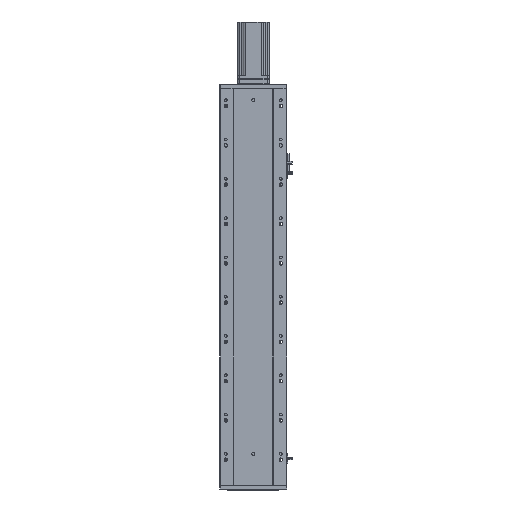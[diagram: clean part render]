
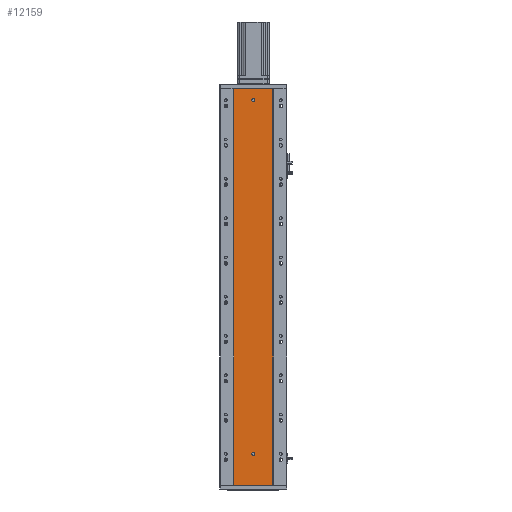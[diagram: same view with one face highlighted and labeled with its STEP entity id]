
A CAD part, front view. The second image highlights one B-rep face of the part: STEP entity #12159.
In plain terms, the highlighted planar face has unit normal (0, -1, 0).
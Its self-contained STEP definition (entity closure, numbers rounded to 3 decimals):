
#234 = CARTESIAN_POINT ( 'NONE',  ( 0., 79.476, 0. ) ) ;
#1301 = LINE ( 'NONE', #234, #2224 ) ;
#2224 = VECTOR ( 'NONE', #68374, 1000. ) ;
#2259 = CARTESIAN_POINT ( 'NONE',  ( 185.97, 79.476, 336.667 ) ) ;
#2319 = VERTEX_POINT ( 'NONE', #44095 ) ;
#2675 = EDGE_CURVE ( 'NONE', #71366, #2319, #48453, .T. ) ;
#4376 = ORIENTED_EDGE ( 'NONE', *, *, #30607, .T. ) ;
#4814 = DIRECTION ( 'NONE',  ( 0., 0., -1. ) ) ;
#6255 = ORIENTED_EDGE ( 'NONE', *, *, #7526, .F. ) ;
#6853 = FACE_OUTER_BOUND ( 'NONE', #45822, .T. ) ;
#7526 = EDGE_CURVE ( 'NONE', #68828, #59315, #68044, .T. ) ;
#7969 = CARTESIAN_POINT ( 'NONE',  ( 185.97, 79.476, 0. ) ) ;
#9318 = EDGE_LOOP ( 'NONE', ( #69474, #26915 ) ) ;
#11415 = CARTESIAN_POINT ( 'NONE',  ( 185.97, 79.476, 0. ) ) ;
#12159 = ADVANCED_FACE ( 'NONE', ( #71763, #28297, #6853 ), #39096, .F. ) ;
#12441 = CARTESIAN_POINT ( 'NONE',  ( 86.97, 79.476, 673.333 ) ) ;
#12668 = AXIS2_PLACEMENT_3D ( 'NONE', #56503, #45325, #50518 ) ;
#12685 = CARTESIAN_POINT ( 'NONE',  ( 86.97, 79.476, 1010. ) ) ;
#15918 = ORIENTED_EDGE ( 'NONE', *, *, #39092, .F. ) ;
#16019 = CARTESIAN_POINT ( 'NONE',  ( 136.47, 79.476, 980. ) ) ;
#16091 = VERTEX_POINT ( 'NONE', #59384 ) ;
#20193 = CARTESIAN_POINT ( 'NONE',  ( 0., 79.476, 1010. ) ) ;
#22346 = ORIENTED_EDGE ( 'NONE', *, *, #46244, .F. ) ;
#23881 = B_SPLINE_CURVE_WITH_KNOTS ( 'NONE', 3,
 ( #42310, #59672, #2259, #7969 ),
 .UNSPECIFIED., .F., .F.,
 ( 4, 4 ),
 ( 0., 1. ),
 .UNSPECIFIED. ) ;
#26915 = ORIENTED_EDGE ( 'NONE', *, *, #46145, .F. ) ;
#27448 = CARTESIAN_POINT ( 'NONE',  ( 136.47, 79.476, 984. ) ) ;
#28297 = FACE_BOUND ( 'NONE', #9318, .T. ) ;
#30607 = EDGE_CURVE ( 'NONE', #2319, #66632, #1301, .T. ) ;
#30987 = VECTOR ( 'NONE', #31418, 1000. ) ;
#31418 = DIRECTION ( 'NONE',  ( 1., 0., 0. ) ) ;
#32261 = EDGE_LOOP ( 'NONE', ( #64786, #6255 ) ) ;
#34334 = DIRECTION ( 'NONE',  ( 0., 1., 0. ) ) ;
#34461 = CARTESIAN_POINT ( 'NONE',  ( 136.47, 79.476, 80. ) ) ;
#34570 = CARTESIAN_POINT ( 'NONE',  ( 136.47, 79.476, 84. ) ) ;
#35621 = CARTESIAN_POINT ( 'NONE',  ( 136.47, 79.476, 80. ) ) ;
#35848 = CIRCLE ( 'NONE', #63763, 4. ) ;
#38186 = DIRECTION ( 'NONE',  ( 0., -1., 0. ) ) ;
#38507 = ORIENTED_EDGE ( 'NONE', *, *, #2675, .T. ) ;
#39092 = EDGE_CURVE ( 'NONE', #71366, #39292, #57633, .T. ) ;
#39096 = PLANE ( 'NONE',  #73442 ) ;
#39292 = VERTEX_POINT ( 'NONE', #44054 ) ;
#42310 = CARTESIAN_POINT ( 'NONE',  ( 185.97, 79.476, 1010. ) ) ;
#43671 = EDGE_CURVE ( 'NONE', #59315, #68828, #35848, .T. ) ;
#44054 = CARTESIAN_POINT ( 'NONE',  ( 185.97, 79.476, 1010. ) ) ;
#44095 = CARTESIAN_POINT ( 'NONE',  ( 86.97, 79.476, 0. ) ) ;
#44301 = CARTESIAN_POINT ( 'NONE',  ( 0., 79.476, 1010. ) ) ;
#44459 = VERTEX_POINT ( 'NONE', #34570 ) ;
#45248 = CIRCLE ( 'NONE', #51029, 4. ) ;
#45325 = DIRECTION ( 'NONE',  ( 0., -1., 0. ) ) ;
#45822 = EDGE_LOOP ( 'NONE', ( #4376, #22346, #15918, #38507 ) ) ;
#46145 = EDGE_CURVE ( 'NONE', #44459, #16091, #45248, .T. ) ;
#46244 = EDGE_CURVE ( 'NONE', #39292, #66632, #23881, .T. ) ;
#47974 = CARTESIAN_POINT ( 'NONE',  ( 86.97, 79.476, 336.667 ) ) ;
#48453 = B_SPLINE_CURVE_WITH_KNOTS ( 'NONE', 3,
 ( #12685, #12441, #47974, #70597 ),
 .UNSPECIFIED., .F., .F.,
 ( 4, 4 ),
 ( 0., 1. ),
 .UNSPECIFIED. ) ;
#50518 = DIRECTION ( 'NONE',  ( 0., 0., -1. ) ) ;
#51029 = AXIS2_PLACEMENT_3D ( 'NONE', #35621, #69389, #52721 ) ;
#52721 = DIRECTION ( 'NONE',  ( 0., 0., -1. ) ) ;
#54080 = CIRCLE ( 'NONE', #64752, 4. ) ;
#56217 = DIRECTION ( 'NONE',  ( 0., 0., 1. ) ) ;
#56503 = CARTESIAN_POINT ( 'NONE',  ( 136.47, 79.476, 980. ) ) ;
#57633 = LINE ( 'NONE', #20193, #30987 ) ;
#59099 = EDGE_CURVE ( 'NONE', #16091, #44459, #54080, .T. ) ;
#59315 = VERTEX_POINT ( 'NONE', #60975 ) ;
#59384 = CARTESIAN_POINT ( 'NONE',  ( 136.47, 79.476, 76. ) ) ;
#59672 = CARTESIAN_POINT ( 'NONE',  ( 185.97, 79.476, 673.333 ) ) ;
#60975 = CARTESIAN_POINT ( 'NONE',  ( 136.47, 79.476, 976. ) ) ;
#62755 = CARTESIAN_POINT ( 'NONE',  ( 86.97, 79.476, 1010. ) ) ;
#62988 = DIRECTION ( 'NONE',  ( 0., -1., 0. ) ) ;
#63763 = AXIS2_PLACEMENT_3D ( 'NONE', #16019, #38186, #4814 ) ;
#64451 = DIRECTION ( 'NONE',  ( 0., 0., -1. ) ) ;
#64752 = AXIS2_PLACEMENT_3D ( 'NONE', #34461, #62988, #64451 ) ;
#64786 = ORIENTED_EDGE ( 'NONE', *, *, #43671, .F. ) ;
#66632 = VERTEX_POINT ( 'NONE', #11415 ) ;
#68044 = CIRCLE ( 'NONE', #12668, 4. ) ;
#68374 = DIRECTION ( 'NONE',  ( 1., 0., 0. ) ) ;
#68828 = VERTEX_POINT ( 'NONE', #27448 ) ;
#69389 = DIRECTION ( 'NONE',  ( 0., -1., 0. ) ) ;
#69474 = ORIENTED_EDGE ( 'NONE', *, *, #59099, .F. ) ;
#70597 = CARTESIAN_POINT ( 'NONE',  ( 86.97, 79.476, 0. ) ) ;
#71366 = VERTEX_POINT ( 'NONE', #62755 ) ;
#71763 = FACE_BOUND ( 'NONE', #32261, .T. ) ;
#73442 = AXIS2_PLACEMENT_3D ( 'NONE', #44301, #34334, #56217 ) ;
